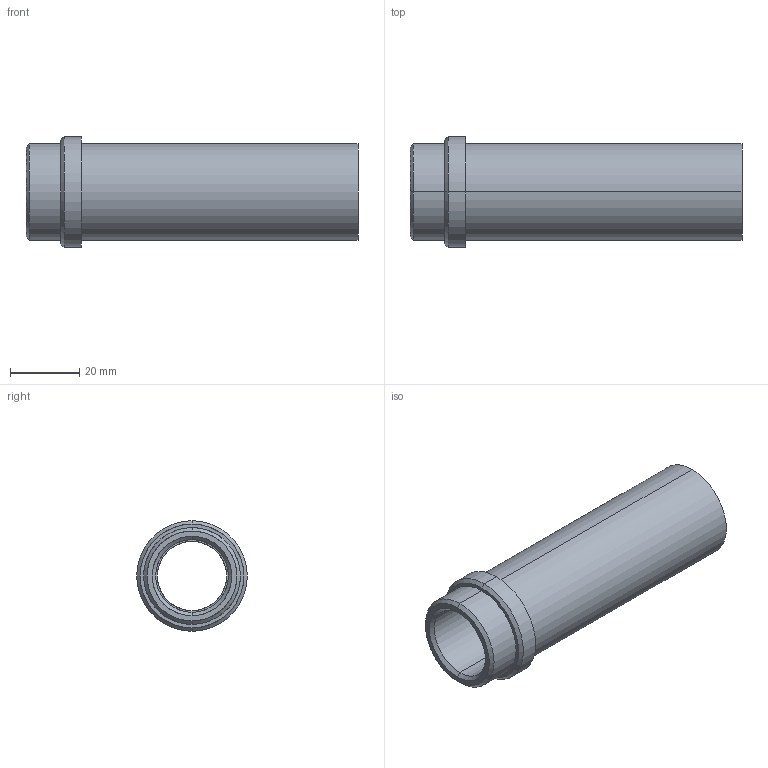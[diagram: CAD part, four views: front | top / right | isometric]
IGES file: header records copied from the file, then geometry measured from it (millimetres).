
Start section: START RECORD GO HERE.
Global section: file name: 358-20x96.igs; native system: DASSAULT SYSTEMES CATIA V5 R20 - www.3ds.com; preprocessor: CATIA Version 5 Release 20 ; author: Utente; organization: NB04-ASUS; date: 20210408.144125; units: millimetre
Bounding box: 96 x 32 x 32 mm (x, y, z)
Surface area: 15505.4 mm2 (no closed solid volume)
Topology: 0 solids, 0 shells, 23 faces, 148 edges, 148 vertices
Faces by surface type: revolution 18, plane 5
